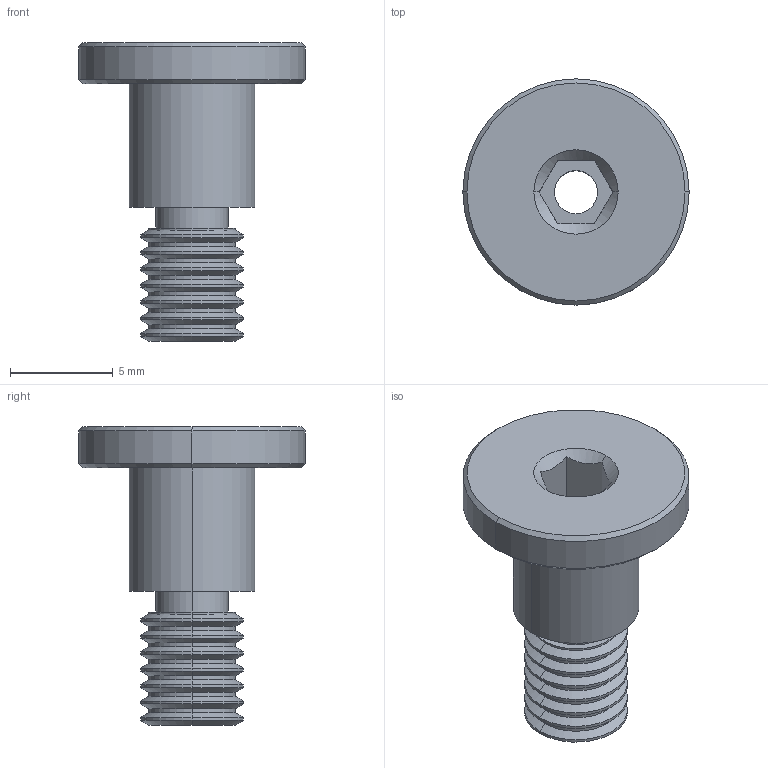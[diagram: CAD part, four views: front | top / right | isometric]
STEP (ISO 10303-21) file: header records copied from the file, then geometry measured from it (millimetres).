
FILE_DESCRIPTION (( 'STEP AP214' ), '1' );
FILE_NAME ('VM22-M5.STEP', '2023-03-07T00:43:02', ( 'Windows User' ), ( 'P R C' ), 'SwSTEP 2.0', 'SolidWorks 2019', '' );
FILE_SCHEMA (( 'AUTOMOTIVE_DESIGN' ));
Length unit declared in the file: millimetre
Products named in the file (1): VM22-M5
Bounding box: 11 x 11 x 14.5 mm (x, y, z)
Volume: 386.3 mm3; surface area: 619.3 mm2
Topology: 1 solids, 1 shells, 84 faces, 172 edges, 94 vertices
Faces by surface type: cone 36, cylinder 36, plane 12
Entity records: 2234 total; most frequent: DIRECTION 418, CARTESIAN_POINT 397, ORIENTED_EDGE 344, EDGE_CURVE 172, AXIS2_PLACEMENT_3D 167, VERTEX_POINT 94, EDGE_LOOP 90, FACE_OUTER_BOUND 84
